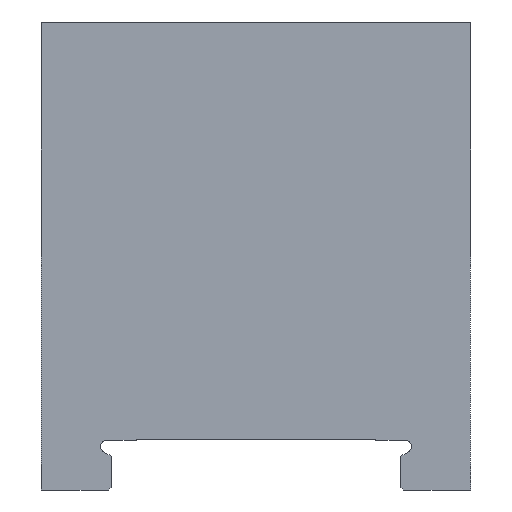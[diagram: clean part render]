
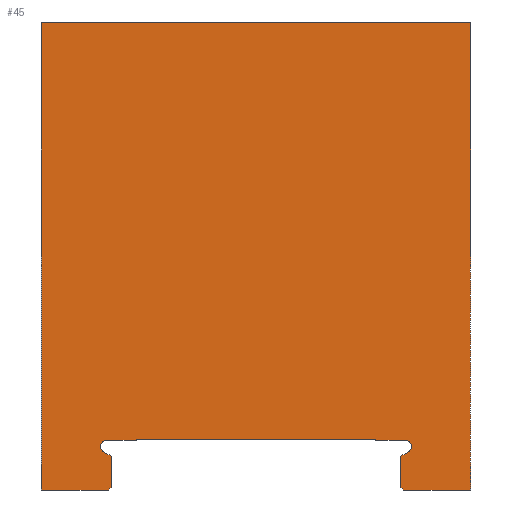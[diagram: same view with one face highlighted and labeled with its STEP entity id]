
A CAD part, front view. The second image highlights one B-rep face of the part: STEP entity #45.
In plain terms, the highlighted planar face has unit normal (0, -1, 0).
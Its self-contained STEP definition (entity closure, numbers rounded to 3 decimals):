
#4 = DIRECTION ( 'NONE',  ( 0., -1., 0. ) ) ;
#11 = CIRCLE ( 'NONE', #810, 1.1 ) ;
#26 = VERTEX_POINT ( 'NONE', #567 ) ;
#37 = DIRECTION ( 'NONE',  ( 0., 0., 1. ) ) ;
#43 = DIRECTION ( 'NONE',  ( -1., 0., 0. ) ) ;
#45 = ADVANCED_FACE ( 'NONE', ( #1302 ), #1346, .F. ) ;
#63 = DIRECTION ( 'NONE',  ( 0., 0., 1. ) ) ;
#65 = ORIENTED_EDGE ( 'NONE', *, *, #193, .F. ) ;
#72 = ORIENTED_EDGE ( 'NONE', *, *, #84, .F. ) ;
#74 = EDGE_CURVE ( 'NONE', #1448, #1334, #290, .T. ) ;
#84 = EDGE_CURVE ( 'NONE', #287, #26, #515, .T. ) ;
#115 = EDGE_CURVE ( 'NONE', #26, #833, #1062, .T. ) ;
#125 = CARTESIAN_POINT ( 'NONE',  ( 26.795, -62.5, 8.9 ) ) ;
#137 = DIRECTION ( 'NONE',  ( 0., 0., -1. ) ) ;
#149 = EDGE_CURVE ( 'NONE', #270, #544, #1396, .T. ) ;
#155 = CARTESIAN_POINT ( 'NONE',  ( -21.5, -62.5, 8.9 ) ) ;
#170 = VECTOR ( 'NONE', #1452, 1000. ) ;
#179 = VERTEX_POINT ( 'NONE', #264 ) ;
#185 = VECTOR ( 'NONE', #137, 1000. ) ;
#193 = EDGE_CURVE ( 'NONE', #833, #544, #1355, .T. ) ;
#196 = ORIENTED_EDGE ( 'NONE', *, *, #115, .F. ) ;
#197 = VECTOR ( 'NONE', #43, 1000. ) ;
#207 = EDGE_CURVE ( 'NONE', #457, #1306, #546, .T. ) ;
#212 = CARTESIAN_POINT ( 'NONE',  ( -26., -62.5, 6.071 ) ) ;
#220 = LINE ( 'NONE', #226, #170 ) ;
#226 = CARTESIAN_POINT ( 'NONE',  ( -38.5, -62.5, 0. ) ) ;
#237 = EDGE_LOOP ( 'NONE', ( #718, #883, #1178, #846, #495, #1078, #915, #789, #65, #196, #72, #389, #1335, #1223, #772, #976, #1198, #1070 ) ) ;
#244 = CARTESIAN_POINT ( 'NONE',  ( -26., -62.5, 6.071 ) ) ;
#247 = CARTESIAN_POINT ( 'NONE',  ( 38.5, -62.5, 84. ) ) ;
#249 = CARTESIAN_POINT ( 'NONE',  ( -38.5, -62.5, 84. ) ) ;
#264 = CARTESIAN_POINT ( 'NONE',  ( -21.5, -62.5, 9. ) ) ;
#270 = VERTEX_POINT ( 'NONE', #932 ) ;
#281 = AXIS2_PLACEMENT_3D ( 'NONE', #676, #4, #1453 ) ;
#287 = VERTEX_POINT ( 'NONE', #1282 ) ;
#290 = LINE ( 'NONE', #1003, #773 ) ;
#292 = VERTEX_POINT ( 'NONE', #399 ) ;
#315 = EDGE_CURVE ( 'NONE', #1325, #1240, #593, .T. ) ;
#332 = VERTEX_POINT ( 'NONE', #247 ) ;
#342 = LINE ( 'NONE', #400, #534 ) ;
#350 = DIRECTION ( 'NONE',  ( -1., 0., 0. ) ) ;
#372 = LINE ( 'NONE', #817, #1209 ) ;
#389 = ORIENTED_EDGE ( 'NONE', *, *, #979, .F. ) ;
#399 = CARTESIAN_POINT ( 'NONE',  ( -21.5, -62.5, 8.9 ) ) ;
#400 = CARTESIAN_POINT ( 'NONE',  ( 38.5, -62.5, 84. ) ) ;
#404 = CARTESIAN_POINT ( 'NONE',  ( -26., -62.5, 0.5 ) ) ;
#410 = CARTESIAN_POINT ( 'NONE',  ( 38.5, -62.5, 0. ) ) ;
#415 = EDGE_CURVE ( 'NONE', #179, #292, #372, .T. ) ;
#427 = LINE ( 'NONE', #1435, #1357 ) ;
#450 = DIRECTION ( 'NONE',  ( 0.866, 0., -0.5 ) ) ;
#457 = VERTEX_POINT ( 'NONE', #513 ) ;
#478 = VECTOR ( 'NONE', #450, 1000. ) ;
#480 = DIRECTION ( 'NONE',  ( 0., 0., -1. ) ) ;
#487 = CARTESIAN_POINT ( 'NONE',  ( -26.5, -62.5, 0. ) ) ;
#495 = ORIENTED_EDGE ( 'NONE', *, *, #1249, .F. ) ;
#513 = CARTESIAN_POINT ( 'NONE',  ( -38.5, -62.5, 84. ) ) ;
#515 = CIRCLE ( 'NONE', #281, 1.1 ) ;
#533 = CARTESIAN_POINT ( 'NONE',  ( 21.5, -62.5, 8.9 ) ) ;
#534 = VECTOR ( 'NONE', #832, 1000. ) ;
#541 = CARTESIAN_POINT ( 'NONE',  ( -38.5, -62.5, 84. ) ) ;
#544 = VERTEX_POINT ( 'NONE', #404 ) ;
#546 = LINE ( 'NONE', #249, #185 ) ;
#547 = CARTESIAN_POINT ( 'NONE',  ( 27.345, -62.5, 6.847 ) ) ;
#560 = CARTESIAN_POINT ( 'NONE',  ( -38.5, -62.5, 84. ) ) ;
#566 = CARTESIAN_POINT ( 'NONE',  ( 26., -62.5, 6.071 ) ) ;
#567 = CARTESIAN_POINT ( 'NONE',  ( -27.345, -62.5, 6.847 ) ) ;
#568 = CARTESIAN_POINT ( 'NONE',  ( -38.5, -62.5, 0. ) ) ;
#572 = DIRECTION ( 'NONE',  ( 0., 0., 1. ) ) ;
#593 = LINE ( 'NONE', #741, #989 ) ;
#608 = VECTOR ( 'NONE', #350, 1000. ) ;
#624 = EDGE_CURVE ( 'NONE', #1306, #270, #638, .T. ) ;
#638 = LINE ( 'NONE', #1186, #1128 ) ;
#644 = CARTESIAN_POINT ( 'NONE',  ( 26.795, -62.5, 8.9 ) ) ;
#676 = CARTESIAN_POINT ( 'NONE',  ( -26.795, -62.5, 7.8 ) ) ;
#695 = DIRECTION ( 'NONE',  ( 0.707, 0., 0.707 ) ) ;
#710 = LINE ( 'NONE', #736, #1384 ) ;
#718 = ORIENTED_EDGE ( 'NONE', *, *, #1185, .F. ) ;
#736 = CARTESIAN_POINT ( 'NONE',  ( 21.5, -62.5, 8.9 ) ) ;
#741 = CARTESIAN_POINT ( 'NONE',  ( 26., -62.5, 6.071 ) ) ;
#757 = VERTEX_POINT ( 'NONE', #533 ) ;
#764 = DIRECTION ( 'NONE',  ( 1., 0., 0. ) ) ;
#772 = ORIENTED_EDGE ( 'NONE', *, *, #1102, .F. ) ;
#773 = VECTOR ( 'NONE', #1114, 1000. ) ;
#789 = ORIENTED_EDGE ( 'NONE', *, *, #149, .T. ) ;
#806 = EDGE_CURVE ( 'NONE', #1075, #179, #427, .T. ) ;
#810 = AXIS2_PLACEMENT_3D ( 'NONE', #1367, #1152, #37 ) ;
#817 = CARTESIAN_POINT ( 'NONE',  ( -21.5, -62.5, 8.9 ) ) ;
#832 = DIRECTION ( 'NONE',  ( 0., 0., -1. ) ) ;
#833 = VERTEX_POINT ( 'NONE', #212 ) ;
#846 = ORIENTED_EDGE ( 'NONE', *, *, #1120, .F. ) ;
#883 = ORIENTED_EDGE ( 'NONE', *, *, #74, .T. ) ;
#891 = DIRECTION ( 'NONE',  ( 1., 0., 0. ) ) ;
#894 = CARTESIAN_POINT ( 'NONE',  ( 26.5, -62.5, 0. ) ) ;
#915 = ORIENTED_EDGE ( 'NONE', *, *, #624, .T. ) ;
#932 = CARTESIAN_POINT ( 'NONE',  ( -26.5, -62.5, 0. ) ) ;
#945 = LINE ( 'NONE', #1318, #1233 ) ;
#959 = EDGE_CURVE ( 'NONE', #1240, #1183, #11, .T. ) ;
#976 = ORIENTED_EDGE ( 'NONE', *, *, #1275, .F. ) ;
#979 = EDGE_CURVE ( 'NONE', #292, #287, #1372, .T. ) ;
#989 = VECTOR ( 'NONE', #1168, 1000. ) ;
#992 = DIRECTION ( 'NONE',  ( 0., 1., 0. ) ) ;
#1003 = CARTESIAN_POINT ( 'NONE',  ( 26.5, -62.5, 0. ) ) ;
#1009 = VECTOR ( 'NONE', #891, 1000. ) ;
#1014 = DIRECTION ( 'NONE',  ( 0., 0., -1. ) ) ;
#1062 = LINE ( 'NONE', #244, #478 ) ;
#1070 = ORIENTED_EDGE ( 'NONE', *, *, #315, .F. ) ;
#1075 = VERTEX_POINT ( 'NONE', #1175 ) ;
#1078 = ORIENTED_EDGE ( 'NONE', *, *, #207, .T. ) ;
#1091 = VERTEX_POINT ( 'NONE', #410 ) ;
#1102 = EDGE_CURVE ( 'NONE', #757, #1075, #710, .T. ) ;
#1105 = VECTOR ( 'NONE', #1014, 1000. ) ;
#1114 = DIRECTION ( 'NONE',  ( 0.707, 0., -0.707 ) ) ;
#1120 = EDGE_CURVE ( 'NONE', #332, #1091, #342, .T. ) ;
#1128 = VECTOR ( 'NONE', #764, 1000. ) ;
#1152 = DIRECTION ( 'NONE',  ( 0., -1., 0. ) ) ;
#1165 = AXIS2_PLACEMENT_3D ( 'NONE', #560, #992, #572 ) ;
#1168 = DIRECTION ( 'NONE',  ( 0.866, 0., 0.5 ) ) ;
#1175 = CARTESIAN_POINT ( 'NONE',  ( 21.5, -62.5, 9. ) ) ;
#1178 = ORIENTED_EDGE ( 'NONE', *, *, #1380, .T. ) ;
#1183 = VERTEX_POINT ( 'NONE', #644 ) ;
#1185 = EDGE_CURVE ( 'NONE', #1448, #1325, #945, .T. ) ;
#1186 = CARTESIAN_POINT ( 'NONE',  ( -38.5, -62.5, 0. ) ) ;
#1198 = ORIENTED_EDGE ( 'NONE', *, *, #959, .F. ) ;
#1209 = VECTOR ( 'NONE', #480, 1000. ) ;
#1215 = DIRECTION ( 'NONE',  ( -1., 0., 0. ) ) ;
#1223 = ORIENTED_EDGE ( 'NONE', *, *, #806, .F. ) ;
#1233 = VECTOR ( 'NONE', #1426, 1000. ) ;
#1240 = VERTEX_POINT ( 'NONE', #547 ) ;
#1249 = EDGE_CURVE ( 'NONE', #457, #332, #1436, .T. ) ;
#1254 = CARTESIAN_POINT ( 'NONE',  ( -26., -62.5, -7. ) ) ;
#1275 = EDGE_CURVE ( 'NONE', #1183, #757, #1310, .T. ) ;
#1282 = CARTESIAN_POINT ( 'NONE',  ( -26.795, -62.5, 8.9 ) ) ;
#1302 = FACE_OUTER_BOUND ( 'NONE', #237, .T. ) ;
#1306 = VERTEX_POINT ( 'NONE', #568 ) ;
#1310 = LINE ( 'NONE', #125, #608 ) ;
#1318 = CARTESIAN_POINT ( 'NONE',  ( 26., -62.5, -7. ) ) ;
#1325 = VERTEX_POINT ( 'NONE', #566 ) ;
#1334 = VERTEX_POINT ( 'NONE', #894 ) ;
#1335 = ORIENTED_EDGE ( 'NONE', *, *, #415, .F. ) ;
#1346 = PLANE ( 'NONE',  #1165 ) ;
#1355 = LINE ( 'NONE', #1254, #1105 ) ;
#1357 = VECTOR ( 'NONE', #1215, 1000. ) ;
#1364 = CARTESIAN_POINT ( 'NONE',  ( 26., -62.5, 0.5 ) ) ;
#1367 = CARTESIAN_POINT ( 'NONE',  ( 26.795, -62.5, 7.8 ) ) ;
#1372 = LINE ( 'NONE', #155, #197 ) ;
#1380 = EDGE_CURVE ( 'NONE', #1334, #1091, #220, .T. ) ;
#1384 = VECTOR ( 'NONE', #63, 1000. ) ;
#1396 = LINE ( 'NONE', #487, #1447 ) ;
#1426 = DIRECTION ( 'NONE',  ( 0., 0., 1. ) ) ;
#1435 = CARTESIAN_POINT ( 'NONE',  ( -21.5, -62.5, 9. ) ) ;
#1436 = LINE ( 'NONE', #541, #1009 ) ;
#1447 = VECTOR ( 'NONE', #695, 1000. ) ;
#1448 = VERTEX_POINT ( 'NONE', #1364 ) ;
#1452 = DIRECTION ( 'NONE',  ( 1., 0., 0. ) ) ;
#1453 = DIRECTION ( 'NONE',  ( 0., 0., 1. ) ) ;
